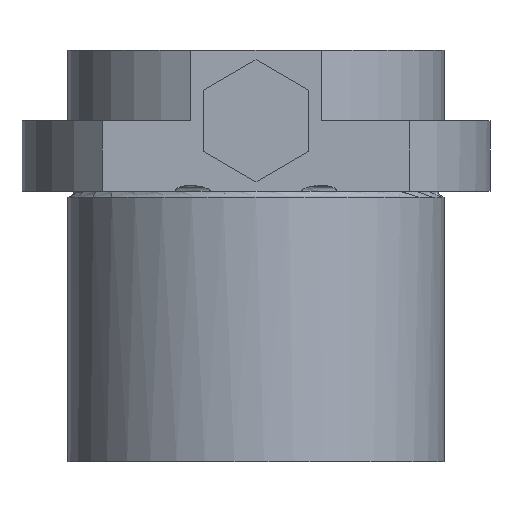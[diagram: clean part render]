
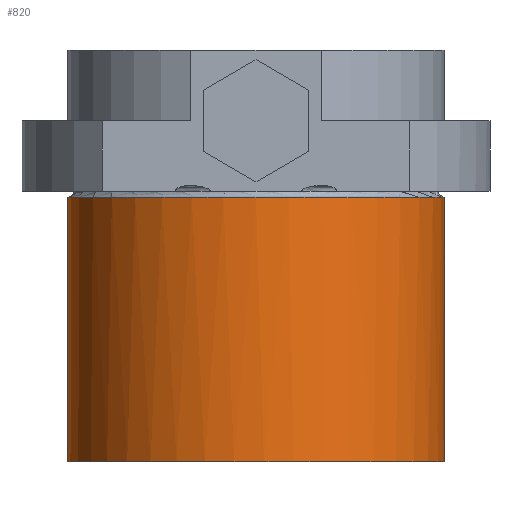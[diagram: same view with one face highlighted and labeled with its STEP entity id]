
A CAD part, front view. The second image highlights one B-rep face of the part: STEP entity #820.
In plain terms, the highlighted cylindrical face has radius 16 mm (diameter 32 mm), a partial arc.
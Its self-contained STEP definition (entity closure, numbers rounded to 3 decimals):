
#452=CARTESIAN_POINT('Control Point',(-16.,0.,-23.)) ;
#453=CARTESIAN_POINT('Control Point',(-16.,-1.568,-23.)) ;
#454=CARTESIAN_POINT('Control Point',(-15.808,-3.135,-23.)) ;
#455=CARTESIAN_POINT('Control Point',(-15.424,-4.672,-23.)) ;
#456=CARTESIAN_POINT('Control Point',(-14.288,-7.619,-23.)) ;
#457=CARTESIAN_POINT('Control Point',(-12.473,-10.205,-23.)) ;
#458=CARTESIAN_POINT('Control Point',(-11.412,-11.38,-23.)) ;
#459=CARTESIAN_POINT('Control Point',(-9.022,-13.446,-23.)) ;
#460=CARTESIAN_POINT('Control Point',(-6.205,-14.874,-23.)) ;
#461=CARTESIAN_POINT('Control Point',(-4.715,-15.411,-23.)) ;
#462=CARTESIAN_POINT('Control Point',(-1.634,-16.109,-23.)) ;
#463=CARTESIAN_POINT('Control Point',(1.524,-16.044,-23.)) ;
#464=CARTESIAN_POINT('Control Point',(3.091,-15.817,-23.)) ;
#465=CARTESIAN_POINT('Control Point',(6.138,-14.984,-23.)) ;
#466=CARTESIAN_POINT('Control Point',(8.894,-13.44,-23.)) ;
#467=CARTESIAN_POINT('Control Point',(10.17,-12.502,-23.)) ;
#468=CARTESIAN_POINT('Control Point',(12.466,-10.333,-23.)) ;
#469=CARTESIAN_POINT('Control Point',(14.171,-7.674,-23.)) ;
#470=CARTESIAN_POINT('Control Point',(14.856,-6.246,-23.)) ;
#471=CARTESIAN_POINT('Control Point',(15.567,-4.131,-23.)) ;
#472=CARTESIAN_POINT('Control Point',(15.902,-1.939,-23.)) ;
#473=CARTESIAN_POINT('Control Point',(15.967,-1.294,-23.)) ;
#474=CARTESIAN_POINT('Control Point',(16.,-0.647,-23.)) ;
#475=CARTESIAN_POINT('Control Point',(16.,0.,-23.)) ;
#476=CARTESIAN_POINT('Vertex',(-16.,0.,-23.)) ;
#478=CARTESIAN_POINT('Vertex',(16.,0.,-23.)) ;
#790=CARTESIAN_POINT('Axis2P3D Location',(0.,0.,12.)) ;
#795=CARTESIAN_POINT('Line Origine',(16.,0.,12.)) ;
#799=CARTESIAN_POINT('Vertex',(16.,0.,-0.5)) ;
#802=CARTESIAN_POINT('Axis2P3D Location',(0.,0.,-0.5)) ;
#806=CARTESIAN_POINT('Vertex',(-16.,0.,-0.5)) ;
#809=CARTESIAN_POINT('Line Origine',(-16.,0.,12.)) ;
#791=DIRECTION('Axis2P3D Direction',(0.,0.,-1.)) ;
#792=DIRECTION('Axis2P3D XDirection',(1.,0.,0.)) ;
#796=DIRECTION('Vector Direction',(0.,0.,-1.)) ;
#803=DIRECTION('Axis2P3D Direction',(0.,0.,-1.)) ;
#810=DIRECTION('Vector Direction',(0.,0.,-1.)) ;
#793=AXIS2_PLACEMENT_3D('Cylinder Axis2P3D',#790,#791,#792) ;
#804=AXIS2_PLACEMENT_3D('Circle Axis2P3D',#802,#803,$) ;
#815=ORIENTED_EDGE('',*,*,#801,.T.) ;
#816=ORIENTED_EDGE('',*,*,#808,.F.) ;
#817=ORIENTED_EDGE('',*,*,#813,.T.) ;
#818=ORIENTED_EDGE('',*,*,#480,.T.) ;
#797=VECTOR('Line Direction',#796,1.) ;
#811=VECTOR('Line Direction',#810,1.) ;
#820=ADVANCED_FACE('740-20',(#819),#794,.T.) ;
#451=B_SPLINE_CURVE_WITH_KNOTS('',5,(#452,#453,#454,#455,#456,#457,#458,#459,#460,#461,#462,#463,#464,#465,#466,#467,#468,#469,#470,#471,#472,#473,#474,#475),.UNSPECIFIED.,.F.,.U.,(6,3,3,3,3,3,3,6),(0.,11.085,22.17,33.255,44.34,55.425,66.51,71.085),.UNSPECIFIED.) ;
#805=CIRCLE('generated circle',#804,16.) ;
#794=CYLINDRICAL_SURFACE('generated cylinder',#793,16.) ;
#480=EDGE_CURVE('',#477,#479,#451,.T.) ;
#801=EDGE_CURVE('',#479,#800,#798,.F.) ;
#808=EDGE_CURVE('',#807,#800,#805,.F.) ;
#813=EDGE_CURVE('',#807,#477,#812,.T.) ;
#814=EDGE_LOOP('',(#815,#816,#817,#818)) ;
#819=FACE_OUTER_BOUND('',#814,.T.) ;
#798=LINE('Line',#795,#797) ;
#812=LINE('Line',#809,#811) ;
#477=VERTEX_POINT('',#476) ;
#479=VERTEX_POINT('',#478) ;
#800=VERTEX_POINT('',#799) ;
#807=VERTEX_POINT('',#806) ;
